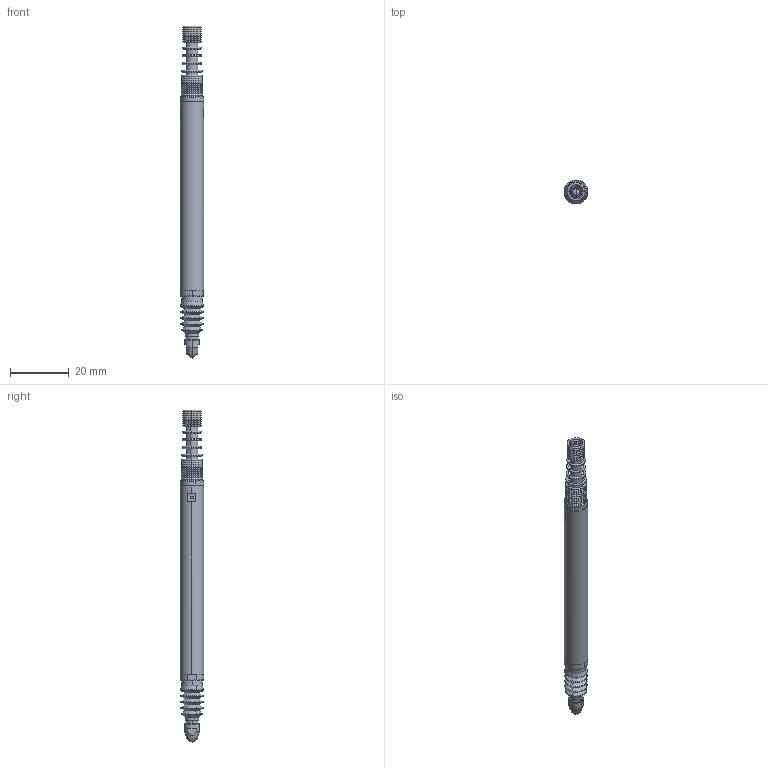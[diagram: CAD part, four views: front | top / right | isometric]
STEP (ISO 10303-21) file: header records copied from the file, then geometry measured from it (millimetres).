
FILE_DESCRIPTION (( 'STEP AP214' ), '1' );
FILE_NAME ('DP-S4_exterior.STEP', '2015-10-07T10:39:20', ( 'ysgoodman' ), ( '' ), 'SwSTEP 2.0', 'SolidWorks 2014', '' );
FILE_SCHEMA (( 'AUTOMOTIVE_DESIGN' ));
Length unit declared in the file: millimetre
Products named in the file (1): DP-S4_exterior
Bounding box: 8 x 8 x 112.71 mm (x, y, z)
Surface area: 4042.4 mm2 (no closed solid volume)
Topology: 0 solids, 36 shells, 195 faces, 438 edges, 256 vertices
Faces by surface type: torus 106, cone 33, cylinder 29, plane 25, sphere 2
Entity records: 7675 total; most frequent: DIRECTION 1156, CARTESIAN_POINT 954, ORIENTED_EDGE 810, AXIS2_PLACEMENT_3D 535, EDGE_CURVE 433, CIRCLE 339, VERTEX_POINT 253, EDGE_LOOP 209
